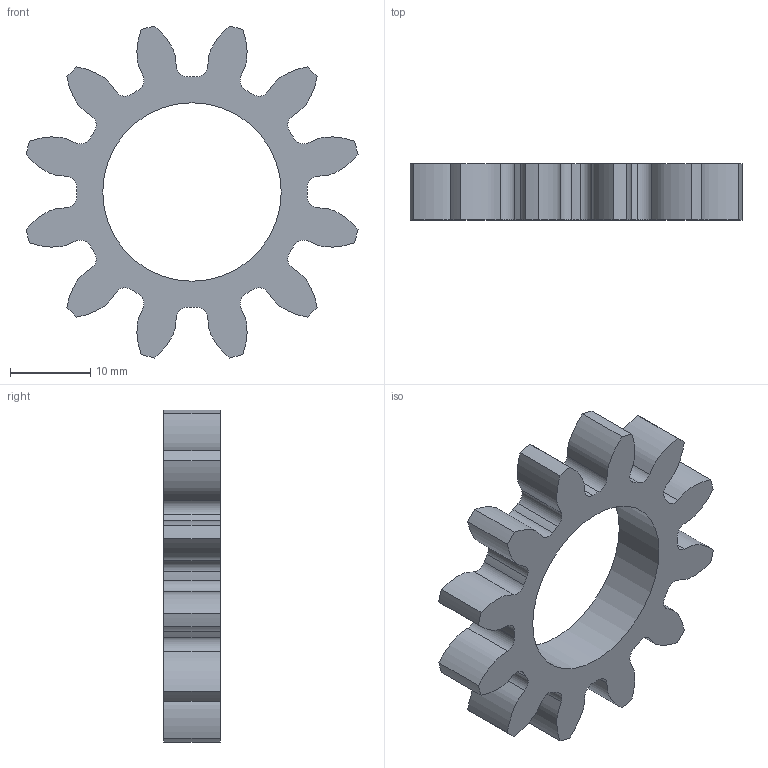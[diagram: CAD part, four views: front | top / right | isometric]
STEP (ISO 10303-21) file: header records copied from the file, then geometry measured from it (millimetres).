
FILE_DESCRIPTION(/* description */ ('STEP AP242 Edition 2','CAx-IF Rec.Pracs.---Representation and Presentation of Product Manufacturing Information (PMI)---4.0---2014-10-13','CAx-IF Rec.Pracs.---3D Tessellated Geometry---0.4---2014-09-14','2;1','CAx-IF Rec.Pracs.---User Defined Attributes---1.5---2016-08-15'),/* implementation_level */ '2;1');
FILE_NAME(/* name */ 'Assembly V2 - Part 2 (5)',/* time_stamp */ '2026-02-05T22:44:41Z',/* author */ (''),/* organization */ (''),/* preprocessor_version */ 'ST-DEVELOPER v20',/* originating_system */ 'ONSHAPE BY PTC INC, 1.210',/* authorisation */ ' ');
FILE_SCHEMA (('AP242_MANAGED_MODEL_BASED_3D_ENGINEERING_MIM_LF { 1 0 10303 442 3 1 4 }'));
Length unit declared in the file: metre
Products named in the file (1): Part 2
Bounding box: 41.39 x 7 x 41.39 mm (x, y, z)
Volume: 4159.7 mm3; surface area: 3264.9 mm2
Topology: 1 solids, 1 shells, 75 faces, 219 edges, 146 vertices
Faces by surface type: cylinder 49, bspline 24, plane 2
Full cylindrical faces by diameter (mm): 22.254 x1
Entity records: 3320 total; most frequent: CARTESIAN_POINT 1376, ORIENTED_EDGE 436, DIRECTION 372, EDGE_CURVE 218, AXIS2_PLACEMENT_3D 150, VERTEX_POINT 146, CIRCLE 98, EDGE_LOOP 78
